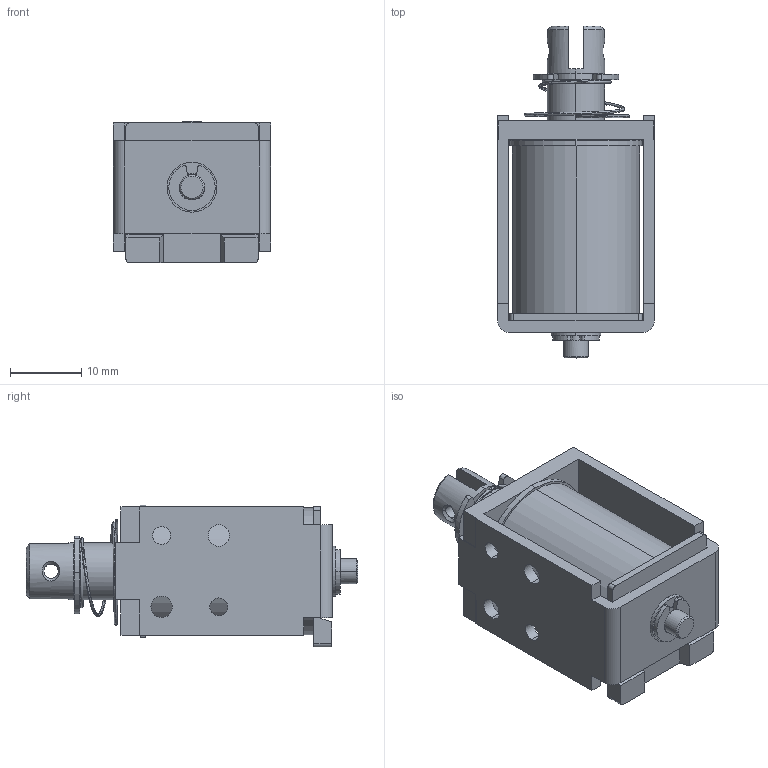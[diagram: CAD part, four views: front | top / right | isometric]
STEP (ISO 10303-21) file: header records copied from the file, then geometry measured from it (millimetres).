
FILE_DESCRIPTION (( 'STEP AP203' ), '1' );
FILE_NAME ('SSBC0830.STEP', '2019-09-27T08:21:00', ( '' ), ( '' ), 'SwSTEP 2.0', 'SolidWorks 2018', '' );
FILE_SCHEMA (( 'CONFIG_CONTROL_DESIGN' ));
Length unit declared in the file: millimetre
Products named in the file (3): PL^SSBC0830; BODY^SSBC0830; SSBC0830
Assembly tree (2 placements, depth 2):
  SSBC0830
    BODY^SSBC0830
    PL^SSBC0830
Bounding box: 22 x 46.5 x 19.85 mm (x, y, z)
Volume: 9700 mm3; surface area: 7876.5 mm2
Topology: 2 solids, 2 shells, 189 faces, 532 edges, 344 vertices
Faces by surface type: cylinder 87, plane 85, bspline 9, cone 8
Entity records: 11558 total; most frequent: CARTESIAN_POINT 6236, DIRECTION 1080, ORIENTED_EDGE 1056, EDGE_CURVE 528, AXIS2_PLACEMENT_3D 399, VERTEX_POINT 343, VECTOR 282, LINE 282
